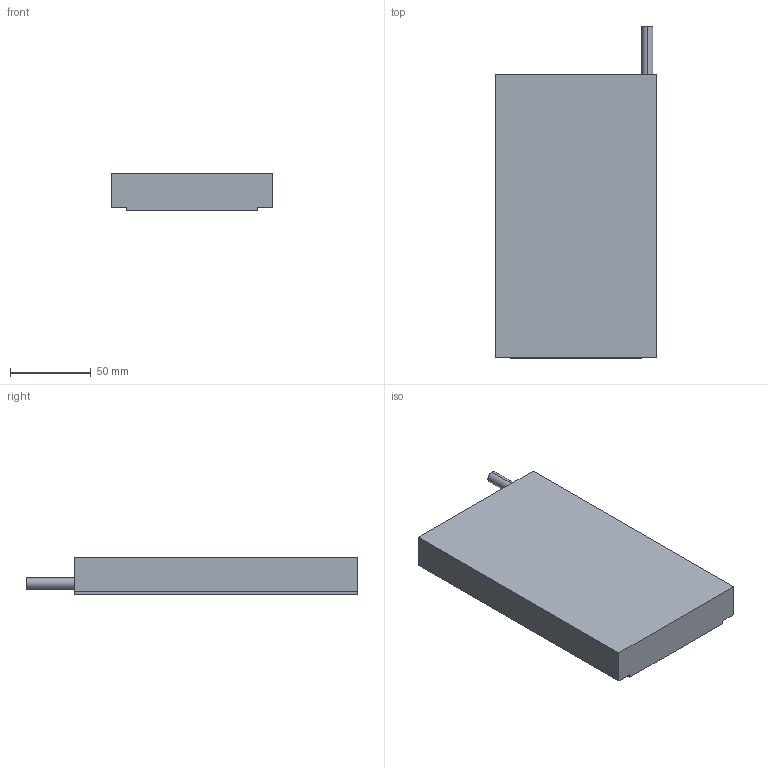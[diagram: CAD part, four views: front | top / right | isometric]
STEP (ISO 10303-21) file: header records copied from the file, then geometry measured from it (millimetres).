
FILE_DESCRIPTION (( 'STEP AP214' ), '1' );
FILE_NAME ('FL-100-175.STEP', '2021-04-27T03:53:37', ( '' ), ( '' ), 'SwSTEP 2.0', 'SolidWorks 2016', '' );
FILE_SCHEMA (( 'AUTOMOTIVE_DESIGN' ));
Length unit declared in the file: millimetre
Products named in the file (1): FL-100-175
Bounding box: 100 x 205 x 23.2 mm (x, y, z)
Volume: 400019.4 mm3; surface area: 49106 mm2
Topology: 1 solids, 1 shells, 117 faces, 290 edges, 150 vertices
Faces by surface type: cylinder 54, cone 52, plane 11
Entity records: 3150 total; most frequent: DIRECTION 582, CARTESIAN_POINT 506, ORIENTED_EDGE 476, EDGE_CURVE 238, AXIS2_PLACEMENT_3D 226, VERTEX_POINT 150, EDGE_LOOP 144, VECTOR 130
